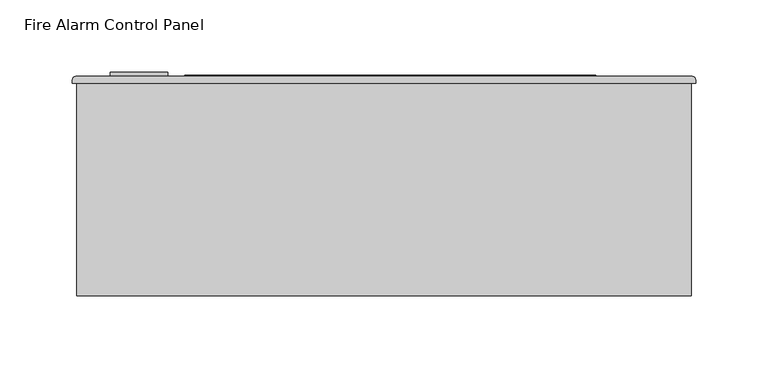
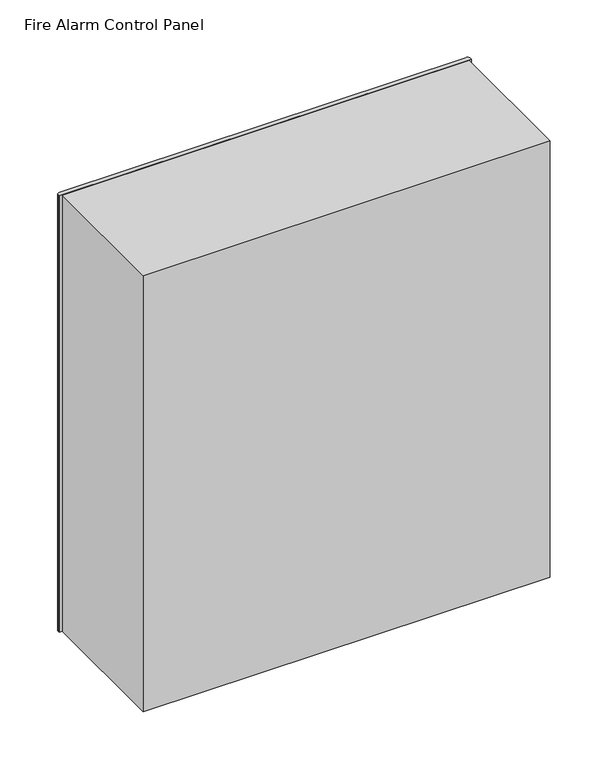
"""IFC4 building model written with IfcOpenShell, lengths in millimetres: proxy geometry, Fire_Alarm_Control_Panel_Wallmount_BIM_Model : Fire Alarm Control Panel."""

from ifc_helpers import new_model, si_unit, point, frame, frame_2d, origin, place, context, project, spatial, polyline, circle_curve, trimmed, segment, composite_curve, outline, extrude, source, transform, mapped, element, save


def fire_alarm_control_panel_67536681(model_context):
    return source(origin(), model_context, "Body", "SweptSolid", [
        extrude(outline(polyline([(271.8339485, 201.8), (-13.1660515, 201.8), (-13.1660515, 202.8), (271.8339485, 202.8), (271.8339485, 201.8)])), frame((0.0, 0.0, 667.186947), z_axis=(0.0, 0.0, 1.0), x_axis=(1.0, 0.0, 0.0)), (0.0, 0.0, 1.0), 157.2148213),
        extrude(outline(composite_curve([segment(trimmed(circle_curve(frame_2d((706.0, -44.7274277)), 20.0), [point((706.0, -64.7274277))], [point((706.0, -24.7274277))], False, "CARTESIAN"), True, "CONTINUOUS"), segment(trimmed(circle_curve(frame_2d((706.0, -44.7274277)), 20.0), [point((706.0, -24.7274277))], [point((706.0, -64.7274277))], False, "CARTESIAN"), True, "CONTINUOUS")], self_intersect=False), holes=[polyline([(713.2746144, -46.5031745), (713.2746144, -41.5031745), (698.2746144, -41.5031745), (698.2746144, -46.5031745), (713.2746144, -46.5031745)])]), frame((0.0, 201.8, 0.0), z_axis=(0.0, 1.0, 0.0), x_axis=(0.0, 0.0, 1.0)), (0.0, 0.0, 1.0), 3.0),
        extrude(outline(composite_curve([segment(trimmed(circle_curve(frame_2d((338.0, 199.0)), 3.0), [point((338.0, 202.0))], [point((341.0, 199.0))], False, "CARTESIAN"), True, "CONTINUOUS"), segment(polyline([(341.0, 199.0), (341.0, 197.1182851), (-91.0, 197.1182851), (-91.0, 199.0)]), True, "CONTINUOUS"), segment(trimmed(circle_curve(frame_2d((-88.0, 199.0)), 3.0), [point((-91.0, 199.0))], [point((-88.0, 202.0))], False, "CARTESIAN"), True, "CONTINUOUS"), segment(polyline([(-88.0, 202.0), (338.0, 202.0)]), True, "CONTINUOUS")], self_intersect=False)), frame((0.0, 0.0, 460.0), z_axis=(0.0, 0.0, 1.0), x_axis=(1.0, 0.0, 0.0)), (0.0, 0.0, 1.0), 483.0),
        extrude(outline(polyline([(338.0, 197.1182851), (338.0, 50.0), (-88.0, 50.0), (-88.0, 197.1182851), (338.0, 197.1182851)])), frame((0.0, 0.0, 460.0), z_axis=(0.0, 0.0, 1.0), x_axis=(1.0, 0.0, 0.0)), (0.0, 0.0, 1.0), 483.0),
    ])


if __name__ == "__main__":
    model = new_model("IFC4")
    model_context = context("Model", 3, world=origin())
    ifc_project = project(units=[si_unit("LENGTHUNIT", "METRE", prefix="MILLI")], contexts=[model_context])
    site = spatial("IfcSite", under=ifc_project)
    building = spatial("IfcBuilding", under=site)
    placement = place(None, origin())
    fire_alarm_control_panel_shape = fire_alarm_control_panel_67536681(model_context)
    element("IfcBuildingElementProxy", 1, Name="Fire_Alarm_Control_Panel_Wallmount_BIM_Model : Fire Alarm Control Panel", ObjectType="Fire_Alarm_Control_Panel_Wallmount_BIM_Model : Fire Alarm Control Panel", at=placement, inside=building, context=model_context, shape_type="MappedRepresentation", body=[
        mapped(fire_alarm_control_panel_shape, transform((0.0, 0.0, 0.0), x_axis=(1.0, 0.0, 0.0), y_axis=(0.0, 1.0, 0.0), z_axis=(0.0, 0.0, 1.0))),
    ])
    save(model, "model.ifc")
